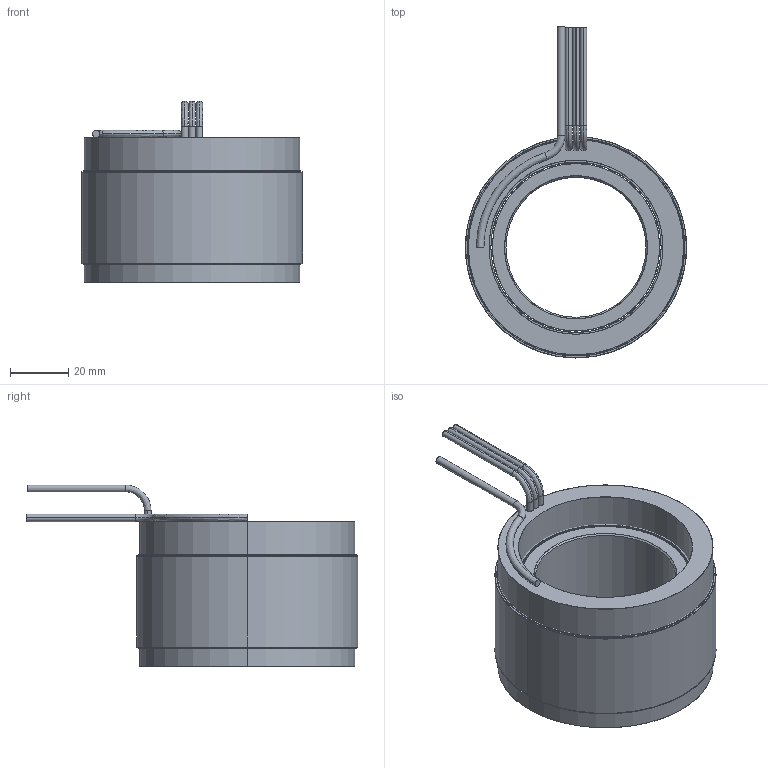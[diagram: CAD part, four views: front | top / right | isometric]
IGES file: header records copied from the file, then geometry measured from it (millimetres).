
Start section: SolidWorks IGES file using analytic representation for surfaces
Global section: file name: \\fs01.aveox.local\user documents\eng\My Documents\6100392-XX UAV STANDARD STATOR AND ROTOR SET 3.0 OD 27S24P\6100392-03.IGS; native system: SolidWorks 2016; preprocessor: SolidWorks 2016; author: eng; date: 201214.190042; units: inch
Bounding box: 76.2 x 114.3 x 62.61 mm (x, y, z)
Surface area: 69532.2 mm2 (no closed solid volume)
Topology: 0 solids, 0 shells, 75 faces, 2284 edges, 2284 vertices
Faces by surface type: revolution 46, bspline 29
